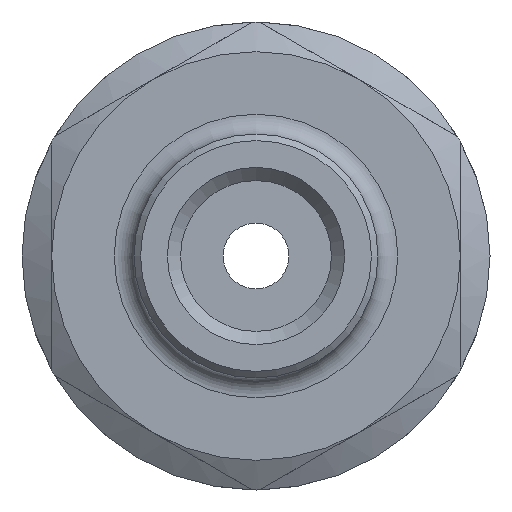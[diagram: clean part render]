
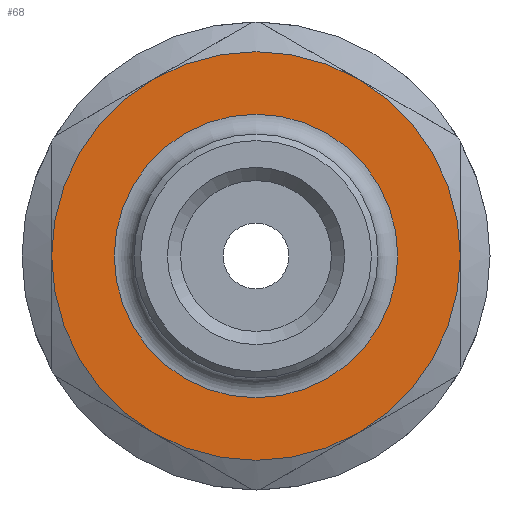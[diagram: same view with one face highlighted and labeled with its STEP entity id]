
A CAD part, front view. The second image highlights one B-rep face of the part: STEP entity #68.
In plain terms, the highlighted planar face has unit normal (0, -1, 0).
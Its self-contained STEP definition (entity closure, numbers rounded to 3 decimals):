
#68=ADVANCED_FACE('',(#260,#262),#264,.F.);
#260=FACE_BOUND('',#261,.T.);
#261=EDGE_LOOP('',(#414,#415,#416));
#262=FACE_BOUND('',#263,.T.);
#263=EDGE_LOOP('',(#417));
#264=PLANE('',#265);
#265=AXIS2_PLACEMENT_3D('',#266,#267,#268);
#266=CARTESIAN_POINT('',(0.,-15.,0.));
#267=DIRECTION('',(0.,1.,0.));
#268=DIRECTION('',(-1.,0.,0.));
#414=ORIENTED_EDGE('',*,*,#468,.T.);
#415=ORIENTED_EDGE('',*,*,#479,.T.);
#416=ORIENTED_EDGE('',*,*,#475,.T.);
#417=ORIENTED_EDGE('',*,*,#482,.F.);
#468=EDGE_CURVE('',#557,#554,#561,.F.);
#475=EDGE_CURVE('',#566,#557,#569,.F.);
#479=EDGE_CURVE('',#554,#566,#573,.F.);
#482=EDGE_CURVE('',#578,#578,#579,.F.);
#554=VERTEX_POINT('',#793);
#557=VERTEX_POINT('',#879);
#561=CIRCLE('',#993,15.5);
#566=VERTEX_POINT('',#1169);
#569=CIRCLE('',#1256,15.5);
#573=CIRCLE('',#1377,15.5);
#578=VERTEX_POINT('',#1391);
#579=CIRCLE('',#1392,10.75);
#793=CARTESIAN_POINT('',(-15.5,-15.,0.));
#879=CARTESIAN_POINT('',(15.5,-15.,0.));
#993=AXIS2_PLACEMENT_3D('',#994,#995,#996);
#994=CARTESIAN_POINT('',(0.,-15.,0.));
#995=DIRECTION('',(0.,1.,0.));
#996=DIRECTION('',(-1.,0.,0.));
#1169=CARTESIAN_POINT('',(-7.75,-15.,-13.423));
#1256=AXIS2_PLACEMENT_3D('',#1257,#1258,#1259);
#1257=CARTESIAN_POINT('',(0.,-15.,0.));
#1258=DIRECTION('',(0.,1.,0.));
#1259=DIRECTION('',(1.,0.,0.));
#1377=AXIS2_PLACEMENT_3D('',#1378,#1379,#1380);
#1378=CARTESIAN_POINT('',(0.,-15.,0.));
#1379=DIRECTION('',(0.,1.,0.));
#1380=DIRECTION('',(-0.5,0.,-0.866));
#1391=CARTESIAN_POINT('',(-10.75,-15.,0.));
#1392=AXIS2_PLACEMENT_3D('',#1393,#1394,#1395);
#1393=CARTESIAN_POINT('',(0.,-15.,0.));
#1394=DIRECTION('',(0.,1.,0.));
#1395=DIRECTION('',(-1.,0.,0.));
